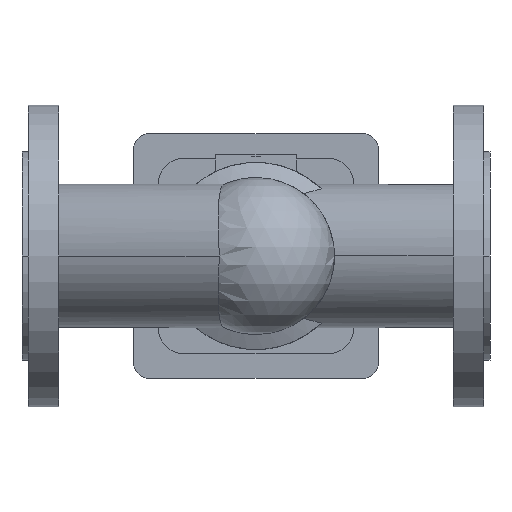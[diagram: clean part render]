
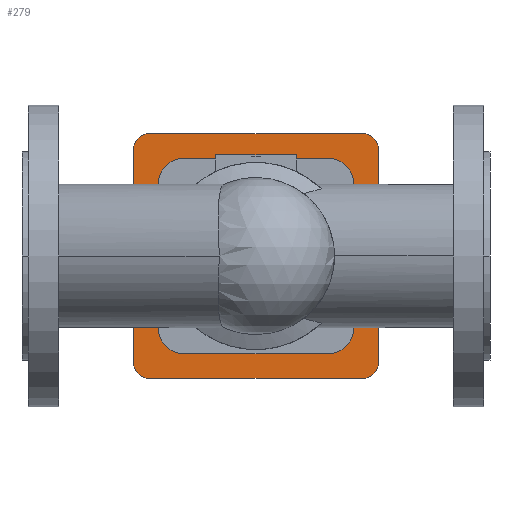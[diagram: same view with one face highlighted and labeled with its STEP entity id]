
A CAD part, front view. The second image highlights one B-rep face of the part: STEP entity #279.
In plain terms, the highlighted planar face has unit normal (0, -1, 0).
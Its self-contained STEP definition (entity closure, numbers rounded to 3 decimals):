
#279 = ADVANCED_FACE( '', ( #667, #668 ), #669, .F. );
#667 = FACE_OUTER_BOUND( '', #1081, .T. );
#668 = FACE_BOUND( '', #1082, .T. );
#669 = PLANE( '', #1083 );
#1081 = EDGE_LOOP( '', ( #2372, #2373, #2374, #2375, #2376, #2377, #2378, #2379 ) );
#1082 = EDGE_LOOP( '', ( #2380, #2381 ) );
#1083 = AXIS2_PLACEMENT_3D( '', #2382, #2383, #2384 );
#2372 = ORIENTED_EDGE( '', *, *, #2949, .F. );
#2373 = ORIENTED_EDGE( '', *, *, #2950, .F. );
#2374 = ORIENTED_EDGE( '', *, *, #2951, .F. );
#2375 = ORIENTED_EDGE( '', *, *, #2952, .F. );
#2376 = ORIENTED_EDGE( '', *, *, #2953, .F. );
#2377 = ORIENTED_EDGE( '', *, *, #2954, .F. );
#2378 = ORIENTED_EDGE( '', *, *, #2955, .F. );
#2379 = ORIENTED_EDGE( '', *, *, #2956, .F. );
#2380 = ORIENTED_EDGE( '', *, *, #2864, .F. );
#2381 = ORIENTED_EDGE( '', *, *, #2957, .F. );
#2382 = CARTESIAN_POINT( '', ( 155., 447.5, 0. ) );
#2383 = DIRECTION( '', ( 0., 1., 0. ) );
#2384 = DIRECTION( '', ( 0., 0., 1. ) );
#2864 = EDGE_CURVE( '', #3519, #3522, #3523, .T. );
#2949 = EDGE_CURVE( '', #3666, #3667, #3668, .T. );
#2950 = EDGE_CURVE( '', #3669, #3666, #3670, .T. );
#2951 = EDGE_CURVE( '', #3671, #3669, #3672, .T. );
#2952 = EDGE_CURVE( '', #3673, #3671, #3674, .T. );
#2953 = EDGE_CURVE( '', #3675, #3673, #3676, .T. );
#2954 = EDGE_CURVE( '', #3677, #3675, #3678, .T. );
#2955 = EDGE_CURVE( '', #3679, #3677, #3680, .T. );
#2956 = EDGE_CURVE( '', #3667, #3679, #3681, .T. );
#2957 = EDGE_CURVE( '', #3522, #3519, #3682, .T. );
#3519 = VERTEX_POINT( '', #4928 );
#3522 = VERTEX_POINT( '', #4932 );
#3523 = CIRCLE( '', #4933, 40. );
#3666 = VERTEX_POINT( '', #5131 );
#3667 = VERTEX_POINT( '', #5132 );
#3668 = CIRCLE( '', #5133, 10. );
#3669 = VERTEX_POINT( '', #5134 );
#3670 = LINE( '', #5135, #5136 );
#3671 = VERTEX_POINT( '', #5137 );
#3672 = CIRCLE( '', #5138, 10. );
#3673 = VERTEX_POINT( '', #5139 );
#3674 = LINE( '', #5140, #5141 );
#3675 = VERTEX_POINT( '', #5142 );
#3676 = CIRCLE( '', #5143, 10. );
#3677 = VERTEX_POINT( '', #5144 );
#3678 = LINE( '', #5145, #5146 );
#3679 = VERTEX_POINT( '', #5147 );
#3680 = CIRCLE( '', #5148, 10. );
#3681 = LINE( '', #5149, #5150 );
#3682 = CIRCLE( '', #5151, 40. );
#4928 = CARTESIAN_POINT( '', ( 115., 447.5, 0. ) );
#4932 = CARTESIAN_POINT( '', ( 195., 447.5, 0. ) );
#4933 = AXIS2_PLACEMENT_3D( '', #5818, #5819, #5820 );
#5131 = CARTESIAN_POINT( '', ( 74., 447.5, 71. ) );
#5132 = CARTESIAN_POINT( '', ( 84., 447.5, 81. ) );
#5133 = AXIS2_PLACEMENT_3D( '', #5963, #5964, #5965 );
#5134 = CARTESIAN_POINT( '', ( 74., 447.5, -71. ) );
#5135 = CARTESIAN_POINT( '', ( 74., 447.5, -71. ) );
#5136 = VECTOR( '', #5966, 1. );
#5137 = CARTESIAN_POINT( '', ( 84., 447.5, -81. ) );
#5138 = AXIS2_PLACEMENT_3D( '', #5967, #5968, #5969 );
#5139 = CARTESIAN_POINT( '', ( 226., 447.5, -81. ) );
#5140 = CARTESIAN_POINT( '', ( 226., 447.5, -81. ) );
#5141 = VECTOR( '', #5970, 1. );
#5142 = CARTESIAN_POINT( '', ( 236., 447.5, -71. ) );
#5143 = AXIS2_PLACEMENT_3D( '', #5971, #5972, #5973 );
#5144 = CARTESIAN_POINT( '', ( 236., 447.5, 71. ) );
#5145 = CARTESIAN_POINT( '', ( 236., 447.5, 71. ) );
#5146 = VECTOR( '', #5974, 1. );
#5147 = CARTESIAN_POINT( '', ( 226., 447.5, 81. ) );
#5148 = AXIS2_PLACEMENT_3D( '', #5975, #5976, #5977 );
#5149 = CARTESIAN_POINT( '', ( 84., 447.5, 81. ) );
#5150 = VECTOR( '', #5978, 1. );
#5151 = AXIS2_PLACEMENT_3D( '', #5979, #5980, #5981 );
#5818 = CARTESIAN_POINT( '', ( 155., 447.5, 0. ) );
#5819 = DIRECTION( '', ( 0., -1., 0. ) );
#5820 = DIRECTION( '', ( -1., 0., 0. ) );
#5963 = CARTESIAN_POINT( '', ( 84., 447.5, 71. ) );
#5964 = DIRECTION( '', ( 0., 1., 0. ) );
#5965 = DIRECTION( '', ( -1., 0., 0. ) );
#5966 = DIRECTION( '', ( 0., 0., 1. ) );
#5967 = CARTESIAN_POINT( '', ( 84., 447.5, -71. ) );
#5968 = DIRECTION( '', ( 0., 1., 0. ) );
#5969 = DIRECTION( '', ( 0., 0., -1. ) );
#5970 = DIRECTION( '', ( -1., 0., 0. ) );
#5971 = CARTESIAN_POINT( '', ( 226., 447.5, -71. ) );
#5972 = DIRECTION( '', ( 0., 1., 0. ) );
#5973 = DIRECTION( '', ( 1., 0., 0. ) );
#5974 = DIRECTION( '', ( 0., 0., -1. ) );
#5975 = CARTESIAN_POINT( '', ( 226., 447.5, 71. ) );
#5976 = DIRECTION( '', ( 0., 1., 0. ) );
#5977 = DIRECTION( '', ( 0., 0., 1. ) );
#5978 = DIRECTION( '', ( 1., 0., 0. ) );
#5979 = CARTESIAN_POINT( '', ( 155., 447.5, 0. ) );
#5980 = DIRECTION( '', ( 0., -1., 0. ) );
#5981 = DIRECTION( '', ( -1., 0., 0. ) );
